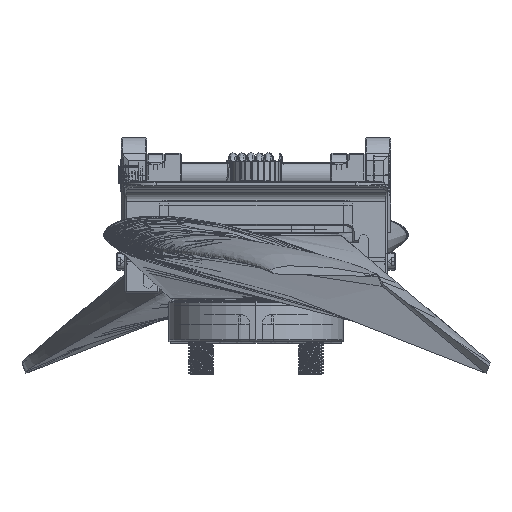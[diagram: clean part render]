
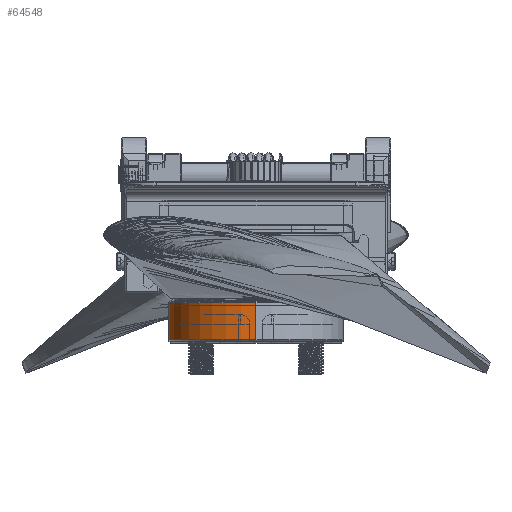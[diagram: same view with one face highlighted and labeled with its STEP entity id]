
A CAD part, left-side view. The second image highlights one B-rep face of the part: STEP entity #64548.
In plain terms, the highlighted cylindrical face has radius 27.5 mm (diameter 55 mm), a partial arc.
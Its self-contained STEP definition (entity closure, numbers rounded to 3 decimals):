
#6033 = DIRECTION ( 'NONE',  ( -1., 0., 0. ) ) ;
#6819 = EDGE_CURVE ( 'NONE', #131452, #8750, #28225, .T. ) ;
#7030 = VERTEX_POINT ( 'NONE', #89451 ) ;
#8750 = VERTEX_POINT ( 'NONE', #91651 ) ;
#15106 = VERTEX_POINT ( 'NONE', #192346 ) ;
#22631 = DIRECTION ( 'NONE',  ( 0., 0., -1. ) ) ;
#28225 = LINE ( 'NONE', #194648, #255784 ) ;
#30062 = EDGE_LOOP ( 'NONE', ( #146591, #70940, #105912, #132341 ) ) ;
#38030 = CARTESIAN_POINT ( 'NONE',  ( -52.5, 27.5, 0. ) ) ;
#42002 = DIRECTION ( 'NONE',  ( 1., 0., 0. ) ) ;
#46005 = CARTESIAN_POINT ( 'NONE',  ( -52.5, 0., 0. ) ) ;
#46694 = AXIS2_PLACEMENT_3D ( 'NONE', #203799, #22631, #105184 ) ;
#59325 = DIRECTION ( 'NONE',  ( 0., 0., 1. ) ) ;
#64548 = ADVANCED_FACE ( 'NONE', ( #85929 ), #105937, .T. ) ;
#70940 = ORIENTED_EDGE ( 'NONE', *, *, #177382, .T. ) ;
#73371 = DIRECTION ( 'NONE',  ( 0., 0., -1. ) ) ;
#75627 = EDGE_CURVE ( 'NONE', #7030, #15106, #83203, .T. ) ;
#78950 = EDGE_CURVE ( 'NONE', #15106, #8750, #207202, .T. ) ;
#83203 = LINE ( 'NONE', #38030, #189915 ) ;
#85929 = FACE_OUTER_BOUND ( 'NONE', #30062, .T. ) ;
#89451 = CARTESIAN_POINT ( 'NONE',  ( -52.5, 27.5, -0.3 ) ) ;
#91651 = CARTESIAN_POINT ( 'NONE',  ( -80., 0., -12. ) ) ;
#100597 = CARTESIAN_POINT ( 'NONE',  ( -52.5, 0., -12. ) ) ;
#105184 = DIRECTION ( 'NONE',  ( 1., 0., 0. ) ) ;
#105912 = ORIENTED_EDGE ( 'NONE', *, *, #75627, .T. ) ;
#105937 = CYLINDRICAL_SURFACE ( 'NONE', #252617, 27.5 ) ;
#130562 = AXIS2_PLACEMENT_3D ( 'NONE', #100597, #59325, #42002 ) ;
#131452 = VERTEX_POINT ( 'NONE', #155900 ) ;
#132341 = ORIENTED_EDGE ( 'NONE', *, *, #78950, .T. ) ;
#146591 = ORIENTED_EDGE ( 'NONE', *, *, #6819, .F. ) ;
#148542 = DIRECTION ( 'NONE',  ( 0., 0., -1. ) ) ;
#155900 = CARTESIAN_POINT ( 'NONE',  ( -80., 0., -0.3 ) ) ;
#177382 = EDGE_CURVE ( 'NONE', #131452, #7030, #178656, .T. ) ;
#178656 = CIRCLE ( 'NONE', #46694, 27.5 ) ;
#180551 = DIRECTION ( 'NONE',  ( 0., 0., -1. ) ) ;
#189915 = VECTOR ( 'NONE', #180551, 1000. ) ;
#192346 = CARTESIAN_POINT ( 'NONE',  ( -52.5, 27.5, -12. ) ) ;
#194648 = CARTESIAN_POINT ( 'NONE',  ( -80., 0., 0. ) ) ;
#203799 = CARTESIAN_POINT ( 'NONE',  ( -52.5, 0., -0.3 ) ) ;
#207202 = CIRCLE ( 'NONE', #130562, 27.5 ) ;
#252617 = AXIS2_PLACEMENT_3D ( 'NONE', #46005, #148542, #6033 ) ;
#255784 = VECTOR ( 'NONE', #73371, 1000. ) ;
